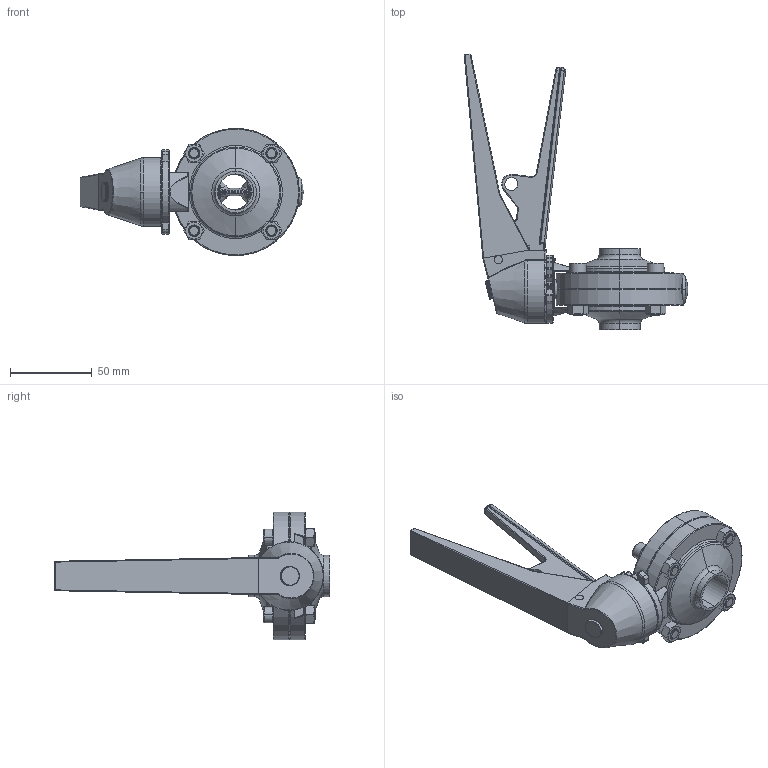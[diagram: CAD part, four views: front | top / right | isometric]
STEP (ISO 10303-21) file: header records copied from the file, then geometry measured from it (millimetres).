
FILE_DESCRIPTION (( 'STEP AP203' ), '1' );
FILE_NAME ('51W-LTH-1.0.STEP', '2025-06-12T03:14:01', ( '' ), ( '' ), 'SwSTEP 2.0', 'SolidWorks 2014', '' );
FILE_SCHEMA (( 'CONFIG_CONTROL_DESIGN' ));
Length unit declared in the file: millimetre
Products named in the file (38): 51-BVP-5B-1.0-3.0; 51-BVP-7-1.0; 12段卡盤; 51-BVP-19-1.0-1.5; 12段塞頭ABS; 51-BVP-20-1.0-1.5; 12段把手-2-lock; 12段螺帽; 51W-LTH-1.0; BFV-W BODY 1.0; 12段把手-1; 12段彈簧; 51-BVP-4-1.0-3.0; 51-BVP-3-1.0; 12段插銷
Assembly tree (23 placements, depth 2):
  51-BVP-5B-1.0-3.0
  51-BVP-19-1.0-1.5
  12段塞頭ABS
  51-BVP-20-1.0-1.5
  12段把手-2-lock
Bounding box: 136.93 x 168.9 x 78 mm (x, y, z)
Volume: 170472.5 mm3; surface area: 86665.5 mm2
Topology: 22 solids, 22 shells, 3735 faces, 9133 edges, 4969 vertices
Faces by surface type: cylinder 1805, plane 949, sphere 578, torus 208, bspline 113, cone 82
Entity records: 112775 total; most frequent: CARTESIAN_POINT 29229, DIRECTION 17742, ORIENTED_EDGE 16370, EDGE_CURVE 8185, AXIS2_PLACEMENT_3D 6928, VERTEX_POINT 4704, LINE 3886, VECTOR 3886
